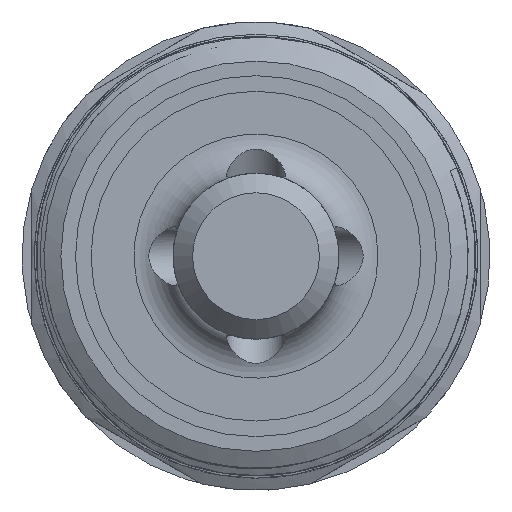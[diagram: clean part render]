
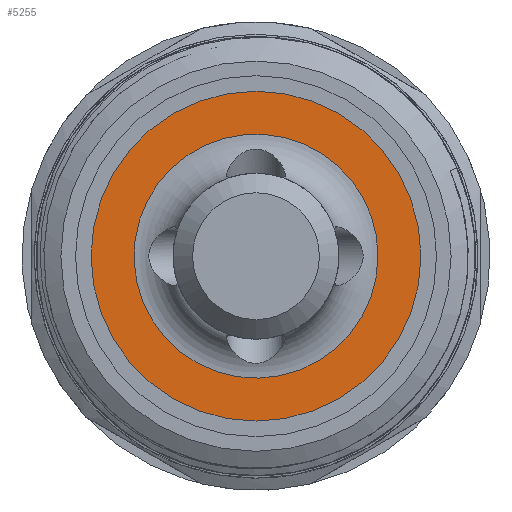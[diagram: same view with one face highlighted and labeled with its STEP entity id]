
A CAD part, front view. The second image highlights one B-rep face of the part: STEP entity #5255.
In plain terms, the highlighted planar face has unit normal (0, -1, 0).
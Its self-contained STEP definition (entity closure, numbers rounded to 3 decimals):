
#331=PLANE('',#6672);
#1172=EDGE_LOOP('',(#3600));
#1173=EDGE_LOOP('',(#3601));
#1427=CIRCLE('',#6669,19.5);
#1428=CIRCLE('',#6671,12.5);
#3600=ORIENTED_EDGE('',*,*,#4465,.F.);
#3601=ORIENTED_EDGE('',*,*,#4464,.T.);
#4464=EDGE_CURVE('',#6037,#6037,#1427,.T.);
#4465=EDGE_CURVE('',#6038,#6038,#1428,.T.);
#5255=ADVANCED_FACE('',(#5470,#5471),#331,.F.);
#5470=FACE_BOUND('',#1172,.T.);
#5471=FACE_BOUND('',#1173,.T.);
#6037=VERTEX_POINT('',#19969);
#6038=VERTEX_POINT('',#19972);
#6669=AXIS2_PLACEMENT_3D('',#19968,#8211,#8212);
#6671=AXIS2_PLACEMENT_3D('',#19971,#8215,#8216);
#6672=AXIS2_PLACEMENT_3D('',#19973,#8217,#8218);
#8211=DIRECTION('',(0.,-1.,0.));
#8212=DIRECTION('',(1.,0.,0.));
#8215=DIRECTION('',(0.,-1.,0.));
#8216=DIRECTION('',(1.,0.,0.));
#8217=DIRECTION('',(0.,1.,0.));
#8218=DIRECTION('',(1.,0.,0.));
#19968=CARTESIAN_POINT('',(7.801,-59.308,0.));
#19969=CARTESIAN_POINT('',(27.301,-59.308,0.));
#19971=CARTESIAN_POINT('',(7.801,-59.308,0.));
#19972=CARTESIAN_POINT('',(20.301,-59.308,0.));
#19973=CARTESIAN_POINT('',(7.801,-59.308,19.5));
